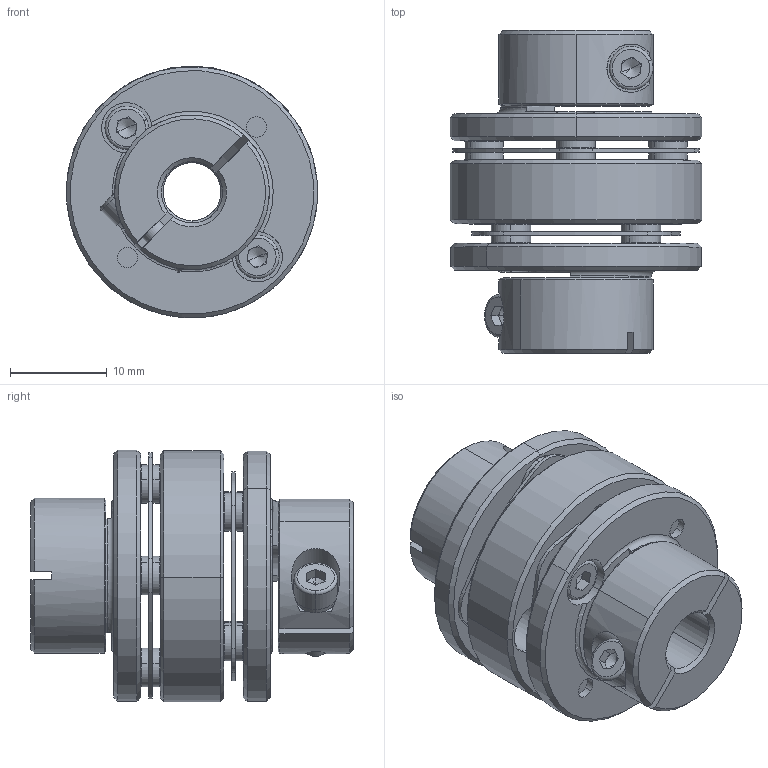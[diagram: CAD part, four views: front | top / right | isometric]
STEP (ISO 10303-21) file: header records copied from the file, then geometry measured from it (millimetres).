
FILE_DESCRIPTION (( 'STEP AP203' ), '1' );
FILE_NAME ('LE2-B-D26L35-6-6.35.STEP', '2021-11-01T05:46:48', ( '' ), ( '' ), 'SwSTEP 2.0', 'SolidWorks 2018', '' );
FILE_SCHEMA (( 'CONFIG_CONTROL_DESIGN' ));
Length unit declared in the file: millimetre
Products named in the file (1): LE2-B-D26L35-6-6.35
Bounding box: 26 x 33.4 x 26.06 mm (x, y, z)
Volume: 7823.4 mm3; surface area: 8360.3 mm2
Topology: 1 solids, 17 shells, 676 faces, 1573 edges, 945 vertices
Faces by surface type: cylinder 227, plane 220, cone 205, torus 24
Entity records: 19513 total; most frequent: DIRECTION 3652, CARTESIAN_POINT 3504, ORIENTED_EDGE 3106, EDGE_CURVE 1553, AXIS2_PLACEMENT_3D 1477, VERTEX_POINT 945, CIRCLE 800, EDGE_LOOP 784
